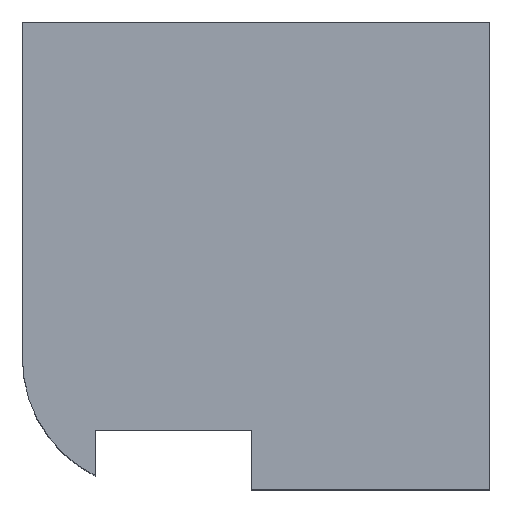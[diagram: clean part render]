
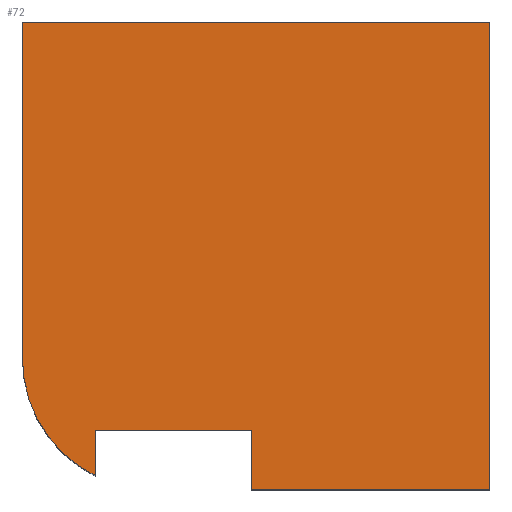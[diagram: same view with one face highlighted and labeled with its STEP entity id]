
A CAD part, top view. The second image highlights one B-rep face of the part: STEP entity #72.
In plain terms, the highlighted planar face has unit normal (0, 0, 1).
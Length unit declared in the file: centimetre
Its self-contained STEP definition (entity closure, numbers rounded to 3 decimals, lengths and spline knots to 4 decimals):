
#1 = LINE ( 'NONE', #310, #57 ) ;
#5 = DIRECTION ( 'NONE',  ( 0., 0., 1. ) ) ;
#6 = VERTEX_POINT ( 'NONE', #237 ) ;
#23 = CARTESIAN_POINT ( 'NONE',  ( 1000., 0., 1000. ) ) ;
#28 = LINE ( 'NONE', #95, #32 ) ;
#32 = VECTOR ( 'NONE', #426, 100. ) ;
#33 = ORIENTED_EDGE ( 'NONE', *, *, #224, .T. ) ;
#49 = CARTESIAN_POINT ( 'NONE',  ( 0., 1000., 1000. ) ) ;
#57 = VECTOR ( 'NONE', #111, 100. ) ;
#66 = CARTESIAN_POINT ( 'NONE',  ( 489.7573, 0., 1000. ) ) ;
#70 = VECTOR ( 'NONE', #246, 100. ) ;
#72 = ADVANCED_FACE ( 'NONE', ( #221 ), #199, .T. ) ;
#76 = VECTOR ( 'NONE', #329, 100. ) ;
#77 = ORIENTED_EDGE ( 'NONE', *, *, #144, .T. ) ;
#80 = ORIENTED_EDGE ( 'NONE', *, *, #298, .T. ) ;
#81 = CARTESIAN_POINT ( 'NONE',  ( 155.7032, 0., 1000. ) ) ;
#95 = CARTESIAN_POINT ( 'NONE',  ( 1000., 1000., 1000. ) ) ;
#96 = VERTEX_POINT ( 'NONE', #23 ) ;
#103 = VERTEX_POINT ( 'NONE', #425 ) ;
#109 = CARTESIAN_POINT ( 'NONE',  ( 280.27, 280.27, 1000. ) ) ;
#111 = DIRECTION ( 'NONE',  ( 1., 0., 0. ) ) ;
#112 = LINE ( 'NONE', #381, #275 ) ;
#126 = CARTESIAN_POINT ( 'NONE',  ( 489.7573, 126.3499, 1000. ) ) ;
#138 = VERTEX_POINT ( 'NONE', #347 ) ;
#144 = EDGE_CURVE ( 'NONE', #378, #171, #112, .T. ) ;
#146 = DIRECTION ( 'NONE',  ( 1., 0., 0. ) ) ;
#156 = CARTESIAN_POINT ( 'NONE',  ( 489.7573, 0., 1000. ) ) ;
#157 = CARTESIAN_POINT ( 'NONE',  ( 0., 0., 1000. ) ) ;
#159 = EDGE_CURVE ( 'NONE', #103, #6, #217, .T. ) ;
#171 = VERTEX_POINT ( 'NONE', #49 ) ;
#179 = ORIENTED_EDGE ( 'NONE', *, *, #358, .T. ) ;
#189 = VERTEX_POINT ( 'NONE', #156 ) ;
#197 = CARTESIAN_POINT ( 'NONE',  ( 1000., 1000., 1000. ) ) ;
#199 = PLANE ( 'NONE',  #260 ) ;
#207 = DIRECTION ( 'NONE',  ( 1., 0., 0. ) ) ;
#215 = ORIENTED_EDGE ( 'NONE', *, *, #239, .T. ) ;
#217 = CIRCLE ( 'NONE', #344, 280.27 ) ;
#221 = FACE_OUTER_BOUND ( 'NONE', #326, .T. ) ;
#223 = DIRECTION ( 'NONE',  ( 1., 0., 0. ) ) ;
#224 = EDGE_CURVE ( 'NONE', #189, #96, #1, .T. ) ;
#228 = VECTOR ( 'NONE', #207, 100. ) ;
#231 = LINE ( 'NONE', #366, #277 ) ;
#235 = LINE ( 'NONE', #66, #76 ) ;
#237 = CARTESIAN_POINT ( 'NONE',  ( 155.7032, 29.2035, 1000. ) ) ;
#239 = EDGE_CURVE ( 'NONE', #6, #138, #407, .T. ) ;
#246 = DIRECTION ( 'NONE',  ( 0., 1., 0. ) ) ;
#253 = ORIENTED_EDGE ( 'NONE', *, *, #159, .T. ) ;
#260 = AXIS2_PLACEMENT_3D ( 'NONE', #157, #328, #223 ) ;
#275 = VECTOR ( 'NONE', #308, 100. ) ;
#277 = VECTOR ( 'NONE', #397, 100. ) ;
#298 = EDGE_CURVE ( 'NONE', #138, #343, #350, .T. ) ;
#308 = DIRECTION ( 'NONE',  ( -1., 0., 0. ) ) ;
#309 = ORIENTED_EDGE ( 'NONE', *, *, #411, .T. ) ;
#310 = CARTESIAN_POINT ( 'NONE',  ( 0., 0., 1000. ) ) ;
#326 = EDGE_LOOP ( 'NONE', ( #215, #80, #309, #33, #179, #77, #416, #253 ) ) ;
#328 = DIRECTION ( 'NONE',  ( 0., 0., 1. ) ) ;
#329 = DIRECTION ( 'NONE',  ( 0., -1., 0. ) ) ;
#343 = VERTEX_POINT ( 'NONE', #126 ) ;
#344 = AXIS2_PLACEMENT_3D ( 'NONE', #109, #5, #146 ) ;
#346 = CARTESIAN_POINT ( 'NONE',  ( 155.7032, 126.3499, 1000. ) ) ;
#347 = CARTESIAN_POINT ( 'NONE',  ( 155.7032, 126.3499, 1000. ) ) ;
#350 = LINE ( 'NONE', #346, #228 ) ;
#358 = EDGE_CURVE ( 'NONE', #96, #378, #28, .T. ) ;
#366 = CARTESIAN_POINT ( 'NONE',  ( 0., 1000., 1000. ) ) ;
#378 = VERTEX_POINT ( 'NONE', #197 ) ;
#381 = CARTESIAN_POINT ( 'NONE',  ( 0., 1000., 1000. ) ) ;
#397 = DIRECTION ( 'NONE',  ( 0., -1., 0. ) ) ;
#402 = EDGE_CURVE ( 'NONE', #171, #103, #231, .T. ) ;
#407 = LINE ( 'NONE', #81, #70 ) ;
#411 = EDGE_CURVE ( 'NONE', #343, #189, #235, .T. ) ;
#416 = ORIENTED_EDGE ( 'NONE', *, *, #402, .T. ) ;
#425 = CARTESIAN_POINT ( 'NONE',  ( 0., 280.27, 1000. ) ) ;
#426 = DIRECTION ( 'NONE',  ( 0., 1., 0. ) ) ;
